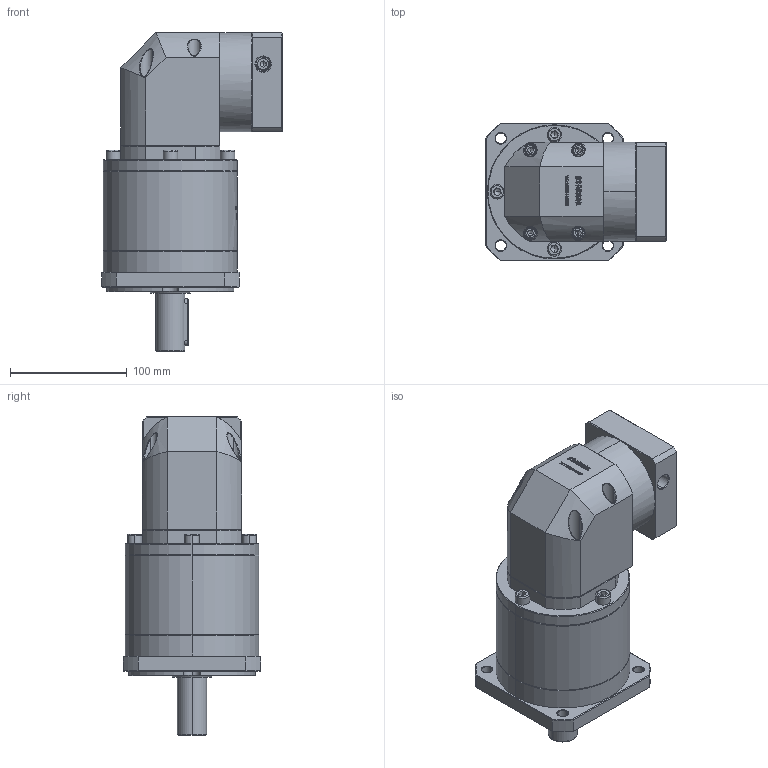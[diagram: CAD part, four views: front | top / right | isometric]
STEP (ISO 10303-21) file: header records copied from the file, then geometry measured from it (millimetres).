
FILE_DESCRIPTION (( 'STEP AP214' ), '1' );
FILE_NAME ('ZFR120A-D25-L3-19-80-100-M6.step', '2023-03-08T05:47:38', ( '' ), ( '' ), 'SwSTEP 2.0', 'SolidWorks 2016', '' );
FILE_SCHEMA (( 'AUTOMOTIVE_DESIGN' ));
Length unit declared in the file: millimetre
Products named in the file (1): ZFR120A-D25-L3-19-80-100-M6
Bounding box: 155.1 x 118 x 273.5 mm (x, y, z)
Volume: 2152978.2 mm3; surface area: 181430.3 mm2
Topology: 6 solids, 6 shells, 3004 faces, 7975 edges, 5119 vertices
Faces by surface type: plane 1576, bspline 625, cylinder 455, cone 334, torus 14
Entity records: 163704 total; most frequent: CARTESIAN_POINT 62046, ORIENTED_EDGE 15858, DIRECTION 11700, EDGE_CURVE 7929, VERTEX_POINT 5119, VECTOR 4924, LINE 4924, AXIS2_PLACEMENT_3D 3388
